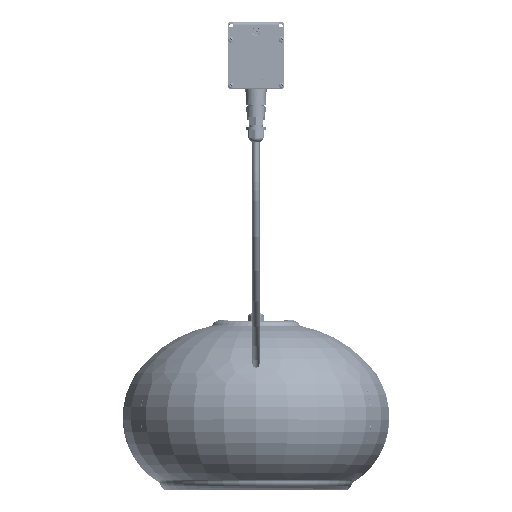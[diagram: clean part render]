
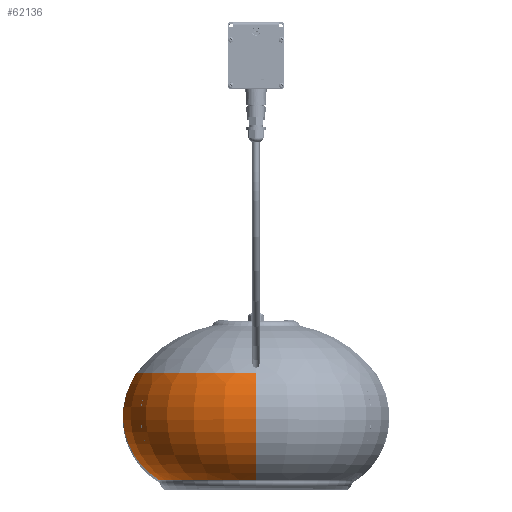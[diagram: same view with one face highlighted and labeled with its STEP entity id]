
A CAD part, top view. The second image highlights one B-rep face of the part: STEP entity #62136.
In plain terms, the highlighted toroidal (fillet/blend) face has major radius 60.207 mm and minor radius 72.072 mm.
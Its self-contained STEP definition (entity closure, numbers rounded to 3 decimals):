
#838 = DIRECTION ( 'NONE',  ( 0., 0., -1. ) ) ;
#1297 = CARTESIAN_POINT ( 'NONE',  ( 0., 66.001, 60.207 ) ) ;
#9259 = DIRECTION ( 'NONE',  ( 0., -1., 0. ) ) ;
#10574 = CARTESIAN_POINT ( 'NONE',  ( 0., 108.496, 0. ) ) ;
#12174 = CIRCLE ( 'NONE', #70234, 95.489 ) ;
#13190 = DIRECTION ( 'NONE',  ( 1., 0., 0. ) ) ;
#19648 = CARTESIAN_POINT ( 'NONE',  ( 0., 3.155, 0. ) ) ;
#19696 = VERTEX_POINT ( 'NONE', #113511 ) ;
#24801 = DIRECTION ( 'NONE',  ( 0., 0., 1. ) ) ;
#28827 = TOROIDAL_SURFACE ( 'NONE', #55614, 60.207, 72.072 ) ;
#30574 = CARTESIAN_POINT ( 'NONE',  ( 0., 108.496, -118.419 ) ) ;
#32204 = DIRECTION ( 'NONE',  ( 0., 0., -1. ) ) ;
#32950 = DIRECTION ( 'NONE',  ( 0., 0., -1. ) ) ;
#36763 = ORIENTED_EDGE ( 'NONE', *, *, #125196, .F. ) ;
#39028 = AXIS2_PLACEMENT_3D ( 'NONE', #10574, #53250, #32950 ) ;
#41301 = DIRECTION ( 'NONE',  ( 0., -1., 0. ) ) ;
#42869 = EDGE_CURVE ( 'NONE', #117818, #54478, #62293, .T. ) ;
#50598 = EDGE_LOOP ( 'NONE', ( #83419, #135253, #117312, #36763 ) ) ;
#51095 = AXIS2_PLACEMENT_3D ( 'NONE', #1297, #13190, #118862 ) ;
#53250 = DIRECTION ( 'NONE',  ( 0., -1., 0. ) ) ;
#54478 = VERTEX_POINT ( 'NONE', #75580 ) ;
#55614 = AXIS2_PLACEMENT_3D ( 'NONE', #72974, #9259, #838 ) ;
#57584 = CIRCLE ( 'NONE', #75495, 72.072 ) ;
#62136 = ADVANCED_FACE ( 'NONE', ( #104473 ), #28827, .T. ) ;
#62293 = CIRCLE ( 'NONE', #51095, 72.072 ) ;
#70234 = AXIS2_PLACEMENT_3D ( 'NONE', #19648, #41301, #32204 ) ;
#71241 = EDGE_CURVE ( 'NONE', #132773, #117818, #92699, .T. ) ;
#72974 = CARTESIAN_POINT ( 'NONE',  ( 0., 66.001, 0. ) ) ;
#75495 = AXIS2_PLACEMENT_3D ( 'NONE', #96424, #120695, #24801 ) ;
#75580 = CARTESIAN_POINT ( 'NONE',  ( 0., 3.155, 95.489 ) ) ;
#83419 = ORIENTED_EDGE ( 'NONE', *, *, #71241, .T. ) ;
#89933 = CARTESIAN_POINT ( 'NONE',  ( 0., 108.496, 118.419 ) ) ;
#92699 = CIRCLE ( 'NONE', #39028, 118.419 ) ;
#96424 = CARTESIAN_POINT ( 'NONE',  ( 0., 66.001, -60.207 ) ) ;
#104473 = FACE_OUTER_BOUND ( 'NONE', #50598, .T. ) ;
#113511 = CARTESIAN_POINT ( 'NONE',  ( 0., 3.155, -95.489 ) ) ;
#117312 = ORIENTED_EDGE ( 'NONE', *, *, #130694, .F. ) ;
#117818 = VERTEX_POINT ( 'NONE', #89933 ) ;
#118862 = DIRECTION ( 'NONE',  ( 0., 0., -1. ) ) ;
#120695 = DIRECTION ( 'NONE',  ( -1., 0., 0. ) ) ;
#125196 = EDGE_CURVE ( 'NONE', #132773, #19696, #57584, .T. ) ;
#130694 = EDGE_CURVE ( 'NONE', #19696, #54478, #12174, .T. ) ;
#132773 = VERTEX_POINT ( 'NONE', #30574 ) ;
#135253 = ORIENTED_EDGE ( 'NONE', *, *, #42869, .T. ) ;
